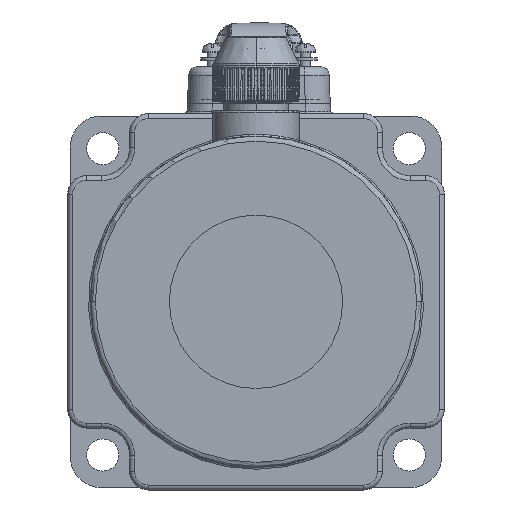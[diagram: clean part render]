
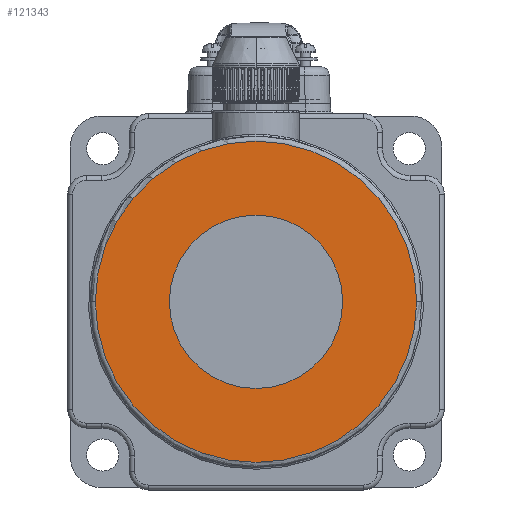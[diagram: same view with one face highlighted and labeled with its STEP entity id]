
A CAD part, left-side view. The second image highlights one B-rep face of the part: STEP entity #121343.
In plain terms, the highlighted planar face has unit normal (-1, 0, 0) as drawn and (0, 0, -1) by its records, which use the part's own axes.
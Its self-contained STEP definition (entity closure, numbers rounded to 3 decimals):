
#115966=CARTESIAN_POINT('',(0.,0.,-12.));
#115967=DIRECTION('',(0.,0.,1.));
#115968=DIRECTION('',(-1.,0.,0.));
#115969=AXIS2_PLACEMENT_3D('',#115966,#115967,#115968);
#115971=CARTESIAN_POINT('',(0.,0.,-12.));
#115972=DIRECTION('',(0.,0.,1.));
#115973=DIRECTION('',(1.,0.,0.));
#115974=AXIS2_PLACEMENT_3D('',#115971,#115972,#115973);
#115976=CARTESIAN_POINT('',(0.,0.,-12.));
#115977=DIRECTION('',(0.,0.,-1.));
#115978=DIRECTION('',(0.,1.,0.));
#115979=AXIS2_PLACEMENT_3D('',#115976,#115977,#115978);
#115981=CARTESIAN_POINT('',(0.,0.,-12.));
#115982=DIRECTION('',(0.,0.,-1.));
#115983=DIRECTION('',(0.,-1.,0.));
#115984=AXIS2_PLACEMENT_3D('',#115981,#115982,#115983);
#116727=CARTESIAN_POINT('',(-25.95,0.,-12.));
#116728=VERTEX_POINT('',#116727);
#116729=CARTESIAN_POINT('',(25.95,0.,-12.));
#116730=VERTEX_POINT('',#116729);
#116731=CARTESIAN_POINT('',(0.,14.,-12.));
#116732=CARTESIAN_POINT('',(0.,-14.,-12.));
#116733=VERTEX_POINT('',#116731);
#116734=VERTEX_POINT('',#116732);
#121328=CARTESIAN_POINT('',(0.,0.,-12.));
#121329=DIRECTION('',(0.,0.,-1.));
#121330=DIRECTION('',(-1.,0.,0.));
#121331=AXIS2_PLACEMENT_3D('',#121328,#121329,#121330);
#121332=PLANE('',#121331);
#121333=ORIENTED_EDGE('',*,*,#121319,.T.);
#121334=ORIENTED_EDGE('',*,*,#121305,.T.);
#121335=EDGE_LOOP('',(#121333,#121334));
#121336=FACE_OUTER_BOUND('',#121335,.F.);
#121338=ORIENTED_EDGE('',*,*,#121337,.T.);
#121340=ORIENTED_EDGE('',*,*,#121339,.T.);
#121341=EDGE_LOOP('',(#121338,#121340));
#121342=FACE_BOUND('',#121341,.F.);
#115970=CIRCLE('',#115969,25.95);
#115975=CIRCLE('',#115974,25.95);
#115980=CIRCLE('',#115979,14.);
#115985=CIRCLE('',#115984,14.);
#121305=EDGE_CURVE('',#116730,#116728,#115975,.T.);
#121319=EDGE_CURVE('',#116728,#116730,#115970,.T.);
#121337=EDGE_CURVE('',#116733,#116734,#115980,.T.);
#121339=EDGE_CURVE('',#116734,#116733,#115985,.T.);
#121343=ADVANCED_FACE('',(#121336,#121342),#121332,.T.);
